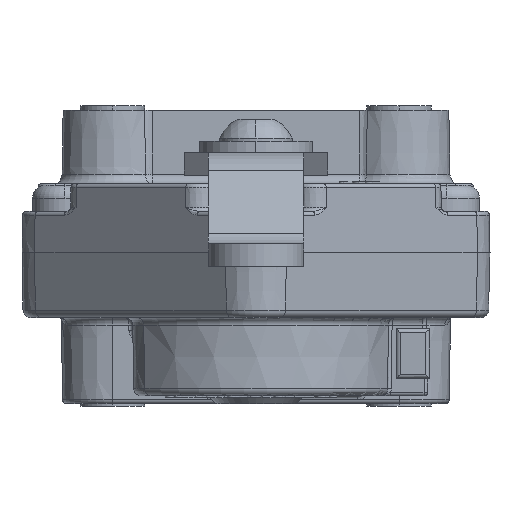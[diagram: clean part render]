
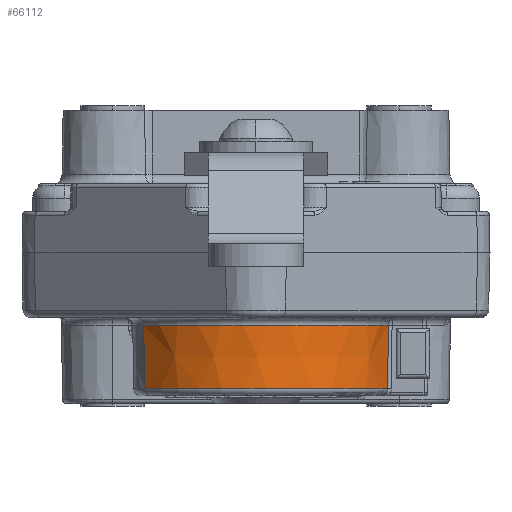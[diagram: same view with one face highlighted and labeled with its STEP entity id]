
A CAD part, front view. The second image highlights one B-rep face of the part: STEP entity #66112.
In plain terms, the highlighted conical face has half-angle 1 degrees and reference radius 18.631 mm.
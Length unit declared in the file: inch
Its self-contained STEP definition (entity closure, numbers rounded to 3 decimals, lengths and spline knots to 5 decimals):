
#717 = B_SPLINE_CURVE_WITH_KNOTS ( 'NONE', 3,
 ( #62643, #15863, #69375, #29334 ),
 .UNSPECIFIED., .F., .F.,
 ( 4, 4 ),
 ( 0.001, 0.00943 ),
 .UNSPECIFIED. ) ;
#899 = DIRECTION ( 'NONE',  ( 0., 0., -1. ) ) ;
#3441 = CARTESIAN_POINT ( 'NONE',  ( 0.69361, -0.2174, 0.4107 ) ) ;
#6858 = EDGE_LOOP ( 'NONE', ( #81649, #40655, #48624, #81747 ) ) ;
#7403 = DIRECTION ( 'NONE',  ( -1., 0., 0. ) ) ;
#7689 = CARTESIAN_POINT ( 'NONE',  ( 0., 0., 0.79 ) ) ;
#15863 = CARTESIAN_POINT ( 'NONE',  ( -0.58593, -0.4269, 0.30002 ) ) ;
#23302 = CARTESIAN_POINT ( 'NONE',  ( 0.68965, -0.21217, 0.10533 ) ) ;
#29279 = EDGE_CURVE ( 'NONE', #31256, #80420, #71767, .T. ) ;
#29334 = CARTESIAN_POINT ( 'NONE',  ( -0.58153, -0.42636, 0.07867 ) ) ;
#29757 = AXIS2_PLACEMENT_3D ( 'NONE', #7689, #54443, #7403 ) ;
#30019 = CARTESIAN_POINT ( 'NONE',  ( 0.69052, -0.21331, 0.17198 ) ) ;
#30984 = EDGE_CURVE ( 'NONE', #45924, #62285, #48596, .T. ) ;
#31256 = VERTEX_POINT ( 'NONE', #50217 ) ;
#31723 = CARTESIAN_POINT ( 'NONE',  ( 0., 0., 0.07867 ) ) ;
#32101 = EDGE_CURVE ( 'NONE', #62285, #31256, #717, .T. ) ;
#36725 = CARTESIAN_POINT ( 'NONE',  ( 0.6919, -0.21513, 0.27863 ) ) ;
#38202 = CONICAL_SURFACE ( 'NONE', #29757, 0.7335, 0.017 ) ;
#38413 = DIRECTION ( 'NONE',  ( -1., 0., 0. ) ) ;
#40259 = FACE_OUTER_BOUND ( 'NONE', #6858, .T. ) ;
#40655 = ORIENTED_EDGE ( 'NONE', *, *, #71133, .T. ) ;
#40888 = CARTESIAN_POINT ( 'NONE',  ( 0., 0., 0.4107 ) ) ;
#42173 = AXIS2_PLACEMENT_3D ( 'NONE', #31723, #78446, #38413 ) ;
#43402 = CARTESIAN_POINT ( 'NONE',  ( 0.69304, -0.21664, 0.36667 ) ) ;
#45924 = VERTEX_POINT ( 'NONE', #62928 ) ;
#47623 = DIRECTION ( 'NONE',  ( 1., 0., 0. ) ) ;
#48596 = CIRCLE ( 'NONE', #64110, 0.72688 ) ;
#48624 = ORIENTED_EDGE ( 'NONE', *, *, #30984, .T. ) ;
#50217 = CARTESIAN_POINT ( 'NONE',  ( -0.58153, -0.42636, 0.07867 ) ) ;
#53896 = B_SPLINE_CURVE_WITH_KNOTS ( 'NONE', 3,
 ( #63056, #69788, #23302, #70067, #30019, #76776, #36725, #83392, #43402, #3441 ),
 .UNSPECIFIED., .F., .F.,
 ( 4, 3, 3, 4 ),
 ( 0., 0.00102, 0.00508, 0.00844 ),
 .UNSPECIFIED. ) ;
#54443 = DIRECTION ( 'NONE',  ( 0., 0., 1. ) ) ;
#62285 = VERTEX_POINT ( 'NONE', #72419 ) ;
#62643 = CARTESIAN_POINT ( 'NONE',  ( -0.58812, -0.42717, 0.4107 ) ) ;
#62928 = CARTESIAN_POINT ( 'NONE',  ( 0.69361, -0.2174, 0.4107 ) ) ;
#63056 = CARTESIAN_POINT ( 'NONE',  ( 0.6893, -0.21171, 0.07867 ) ) ;
#64110 = AXIS2_PLACEMENT_3D ( 'NONE', #40888, #899, #47623 ) ;
#66112 = ADVANCED_FACE ( 'NONE', ( #40259 ), #38202, .T. ) ;
#69375 = CARTESIAN_POINT ( 'NONE',  ( -0.58373, -0.42663, 0.18935 ) ) ;
#69788 = CARTESIAN_POINT ( 'NONE',  ( 0.68948, -0.21194, 0.092 ) ) ;
#70067 = CARTESIAN_POINT ( 'NONE',  ( 0.68982, -0.21239, 0.11866 ) ) ;
#71133 = EDGE_CURVE ( 'NONE', #80420, #45924, #53896, .T. ) ;
#71767 = CIRCLE ( 'NONE', #42173, 0.72108 ) ;
#72419 = CARTESIAN_POINT ( 'NONE',  ( -0.58812, -0.42717, 0.4107 ) ) ;
#75174 = CARTESIAN_POINT ( 'NONE',  ( 0.6893, -0.21171, 0.07867 ) ) ;
#76776 = CARTESIAN_POINT ( 'NONE',  ( 0.69121, -0.21422, 0.2253 ) ) ;
#78446 = DIRECTION ( 'NONE',  ( 0., 0., 1. ) ) ;
#80420 = VERTEX_POINT ( 'NONE', #75174 ) ;
#81649 = ORIENTED_EDGE ( 'NONE', *, *, #29279, .T. ) ;
#81747 = ORIENTED_EDGE ( 'NONE', *, *, #32101, .T. ) ;
#83392 = CARTESIAN_POINT ( 'NONE',  ( 0.69247, -0.21589, 0.32265 ) ) ;
